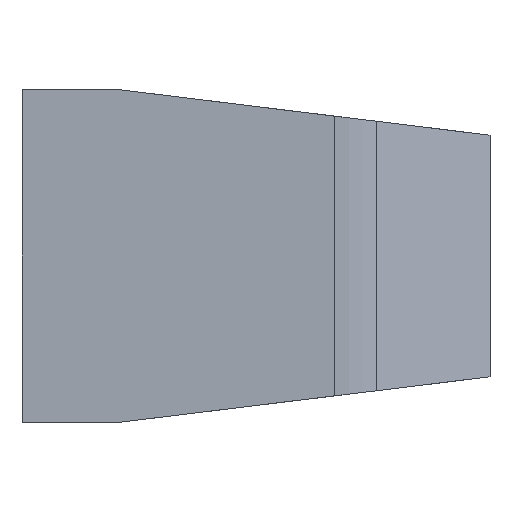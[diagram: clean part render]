
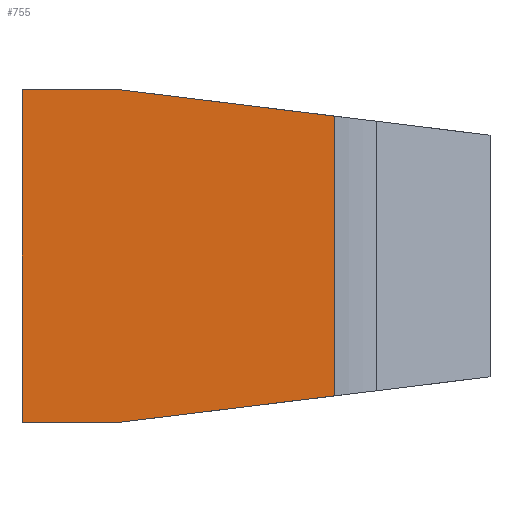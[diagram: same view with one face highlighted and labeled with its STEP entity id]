
A CAD part, left-side view. The second image highlights one B-rep face of the part: STEP entity #755.
In plain terms, the highlighted planar face has unit normal (-1, 0, 0).
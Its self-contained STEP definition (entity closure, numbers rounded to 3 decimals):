
#15 = DIRECTION ( 'NONE',  ( 0., 0., -1. ) ) ;
#43 = VERTEX_POINT ( 'NONE', #1019 ) ;
#63 = CARTESIAN_POINT ( 'NONE',  ( -11., 0., 11. ) ) ;
#274 = EDGE_CURVE ( 'NONE', #744, #1039, #537, .T. ) ;
#293 = VECTOR ( 'NONE', #712, 1000. ) ;
#294 = EDGE_CURVE ( 'NONE', #43, #1412, #1453, .T. ) ;
#339 = DIRECTION ( 'NONE',  ( 1., 0., 0. ) ) ;
#346 = ORIENTED_EDGE ( 'NONE', *, *, #1229, .F. ) ;
#351 = ORIENTED_EDGE ( 'NONE', *, *, #274, .F. ) ;
#399 = LINE ( 'NONE', #1369, #1001 ) ;
#444 = DIRECTION ( 'NONE',  ( 0., -0.993, -0.122 ) ) ;
#465 = LINE ( 'NONE', #776, #760 ) ;
#497 = VECTOR ( 'NONE', #15, 1000. ) ;
#537 = LINE ( 'NONE', #942, #864 ) ;
#556 = CARTESIAN_POINT ( 'NONE',  ( -11., -2.759, -11.468 ) ) ;
#576 = EDGE_CURVE ( 'NONE', #1594, #869, #1277, .T. ) ;
#610 = ORIENTED_EDGE ( 'NONE', *, *, #1528, .T. ) ;
#625 = CARTESIAN_POINT ( 'NONE',  ( -11., 0., -11. ) ) ;
#712 = DIRECTION ( 'NONE',  ( 0., 0.993, -0.122 ) ) ;
#724 = CARTESIAN_POINT ( 'NONE',  ( -11., -20.728, 9.261 ) ) ;
#742 = CARTESIAN_POINT ( 'NONE',  ( -11., -20.728, 11. ) ) ;
#744 = VERTEX_POINT ( 'NONE', #1273 ) ;
#749 = DIRECTION ( 'NONE',  ( 0., -1., 0. ) ) ;
#755 = ADVANCED_FACE ( 'NONE', ( #1489 ), #1430, .F. ) ;
#760 = VECTOR ( 'NONE', #749, 1000. ) ;
#766 = DIRECTION ( 'NONE',  ( 0., 0., -1. ) ) ;
#776 = CARTESIAN_POINT ( 'NONE',  ( -11., 0., -11. ) ) ;
#793 = LINE ( 'NONE', #742, #1396 ) ;
#833 = ORIENTED_EDGE ( 'NONE', *, *, #1514, .F. ) ;
#864 = VECTOR ( 'NONE', #444, 1000. ) ;
#869 = VERTEX_POINT ( 'NONE', #1360 ) ;
#877 = CARTESIAN_POINT ( 'NONE',  ( -11., 0., 11. ) ) ;
#942 = CARTESIAN_POINT ( 'NONE',  ( -11., -0.098, 11.794 ) ) ;
#1000 = CARTESIAN_POINT ( 'NONE',  ( -11., -20.728, -9.261 ) ) ;
#1001 = VECTOR ( 'NONE', #1551, 1000. ) ;
#1019 = CARTESIAN_POINT ( 'NONE',  ( -11., 0., 11. ) ) ;
#1039 = VERTEX_POINT ( 'NONE', #724 ) ;
#1055 = DIRECTION ( 'NONE',  ( 0., 0., -1. ) ) ;
#1133 = AXIS2_PLACEMENT_3D ( 'NONE', #63, #339, #1055 ) ;
#1167 = EDGE_LOOP ( 'NONE', ( #1219, #833, #351, #346, #1583, #610 ) ) ;
#1219 = ORIENTED_EDGE ( 'NONE', *, *, #576, .F. ) ;
#1229 = EDGE_CURVE ( 'NONE', #43, #744, #399, .T. ) ;
#1273 = CARTESIAN_POINT ( 'NONE',  ( -11., -6.567, 11. ) ) ;
#1277 = LINE ( 'NONE', #556, #293 ) ;
#1360 = CARTESIAN_POINT ( 'NONE',  ( -11., -6.567, -11. ) ) ;
#1369 = CARTESIAN_POINT ( 'NONE',  ( -11., 0., 11. ) ) ;
#1396 = VECTOR ( 'NONE', #766, 1000. ) ;
#1412 = VERTEX_POINT ( 'NONE', #625 ) ;
#1430 = PLANE ( 'NONE',  #1133 ) ;
#1453 = LINE ( 'NONE', #877, #497 ) ;
#1489 = FACE_OUTER_BOUND ( 'NONE', #1167, .T. ) ;
#1514 = EDGE_CURVE ( 'NONE', #1039, #1594, #793, .T. ) ;
#1528 = EDGE_CURVE ( 'NONE', #1412, #869, #465, .T. ) ;
#1551 = DIRECTION ( 'NONE',  ( 0., -1., 0. ) ) ;
#1583 = ORIENTED_EDGE ( 'NONE', *, *, #294, .T. ) ;
#1594 = VERTEX_POINT ( 'NONE', #1000 ) ;
